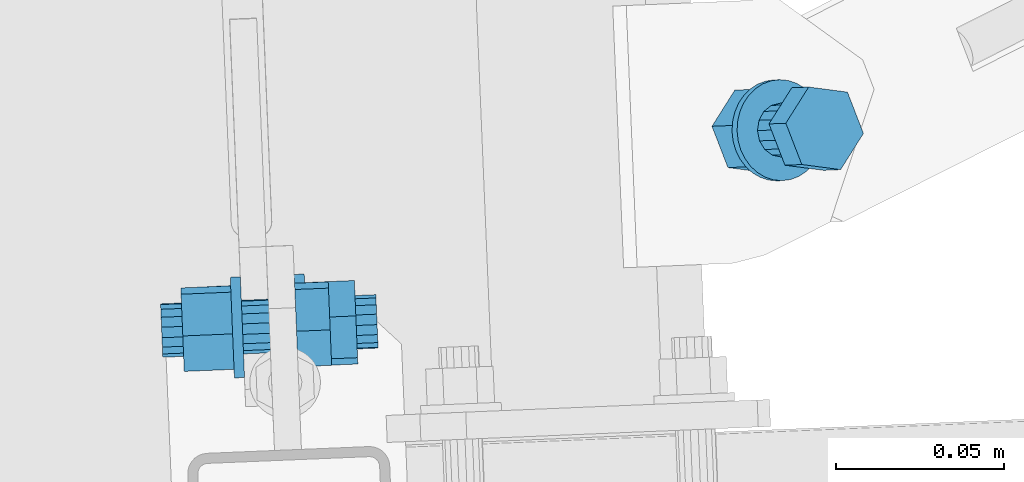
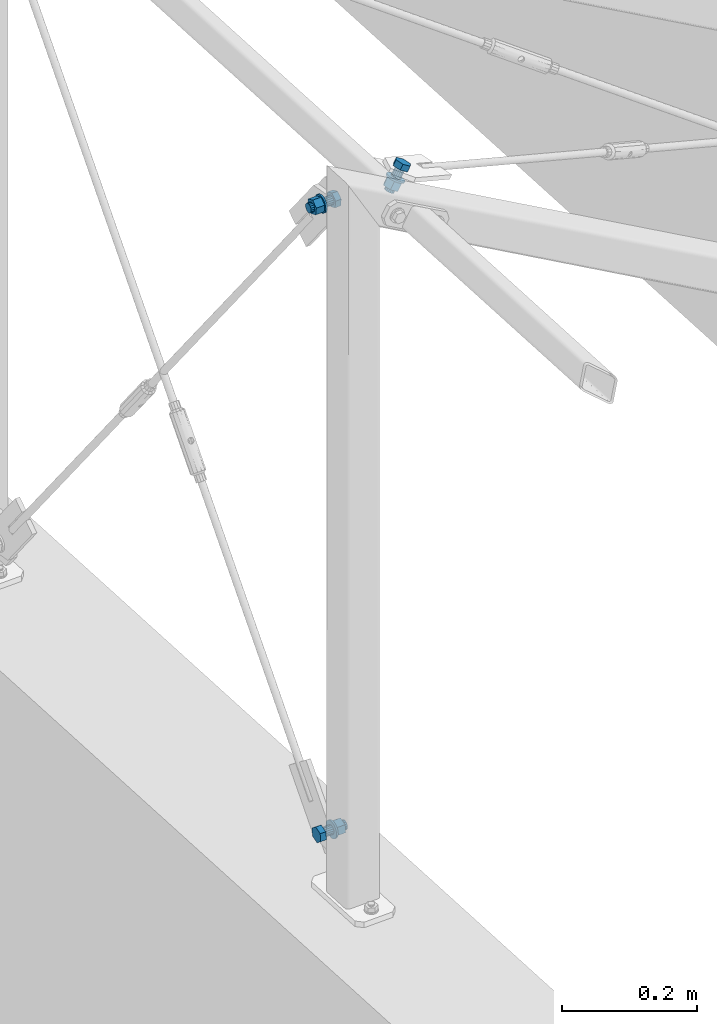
# One storey, part 237 of 288: 3 mechanical fasteners.
"""IFC2X3 building model written with IfcOpenShell, lengths in millimetres."""

from ifc_helpers import new_model, entity, si_unit, converted_unit, origin_with_axes, place, context, project, spatial, faceted_brep, element, save


model = new_model("IFC2X3")

# Units and contexts
model_context = context("Model", 3, precision=1e-09, world=origin_with_axes())
ifc_project = project(units=[si_unit("LENGTHUNIT", "METRE", prefix="MILLI"), si_unit("AREAUNIT", "SQUARE_METRE"), si_unit("VOLUMEUNIT", "CUBIC_METRE"), converted_unit("PLANEANGLEUNIT", "DEGREE", entity("IfcPlaneAngleMeasure", 0.01745329), si_unit("PLANEANGLEUNIT", "RADIAN"), dimensions=[0, 0, 0, 0, 0, 0, 0])], contexts=[model_context])

# Site, building, storey
site_placement = place(None, origin_with_axes())
site = spatial("IfcSite", under=ifc_project, at=site_placement, Name="Remont ?wietlik?w nad MC w NCPP w Opolu", CompositionType="ELEMENT")
building_placement = place(site_placement, origin_with_axes())
building = spatial("IfcBuilding", under=site, at=building_placement, Name="Konstrukcja 1", CompositionType="ELEMENT")
storey_placement = place(building_placement, origin_with_axes())
storey = spatial("IfcBuildingStorey", under=building, at=storey_placement, Name="Default Storey", CompositionType="ELEMENT", Elevation=0.0)

# Mechanical fasteners
mechanical_fastener_1_placement = place(None, origin_with_axes())
element("IfcMechanicalFastener", 1, at=mechanical_fastener_1_placement, inside=storey, ObjectType="Bolt#1", NominalDiameter=16.0, NominalLength=40.0, context=model_context, shape_type="Brep", body=[
    faceted_brep([(-567.97114098, 10330.178741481, 98.705148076), (-577.962454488, 10329.762022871, 98.705148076), (-577.445291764, 10317.362444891, 93.717800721), (-567.453978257, 10317.779163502, 93.717800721), (-577.366698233, 10315.478073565, 80.476441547), (-567.375384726, 10315.894792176, 80.476441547), (-577.805267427, 10325.993280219, 72.222429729), (-567.81395392, 10326.409998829, 72.222429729), (-578.322430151, 10338.392858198, 77.209777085), (-568.331116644, 10338.809576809, 77.209777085), (-578.401023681, 10340.277229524, 90.451136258), (-568.409710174, 10340.693948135, 90.451136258)], [[[0, 1, 2, 3]], [[3, 2, 4, 5]], [[5, 4, 6, 7]], [[7, 6, 8, 9]], [[9, 8, 10, 11]], [[11, 10, 1, 0]], [[4, 2, 1, 10, 8, 6]], [[0, 3, 5, 7, 9, 11]]]),
    faceted_brep([(-567.686814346, 10323.361679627, 79.16885141), (-551.700712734, 10324.028429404, 79.16885141), (-551.615987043, 10321.997032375, 81.537325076), (-567.602088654, 10321.330282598, 81.537325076), (-551.57548107, 10321.025854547, 84.503567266), (-567.561582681, 10320.35910477, 84.503567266), (-551.585361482, 10321.262748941, 87.615994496), (-567.571463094, 10320.595999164, 87.615994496), (-551.644124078, 10322.671650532, 90.400767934), (-567.630225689, 10322.004900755, 90.400767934), (-551.742822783, 10325.038066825, 92.433931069), (-567.728924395, 10324.371317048, 92.433931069), (-551.866431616, 10328.001732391, 93.405953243), (-567.852533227, 10327.334982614, 93.405953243), (-551.996132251, 10331.111456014, 93.168852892), (-567.982233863, 10330.444706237, 93.168852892), (-552.112178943, 10333.89381046, 91.758726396), (-568.098280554, 10333.227060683, 91.758726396), (-552.196904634, 10335.925207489, 89.39025273), (-568.183006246, 10335.258457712, 89.39025273), (-552.237410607, 10336.896385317, 86.42401054), (-568.223512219, 10336.22963554, 86.42401054), (-552.227530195, 10336.659490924, 83.31158331), (-568.213631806, 10335.992741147, 83.31158331), (-552.168767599, 10335.250589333, 80.526809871), (-568.154869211, 10334.583839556, 80.526809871), (-552.070068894, 10332.884173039, 78.493646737), (-568.056170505, 10332.217423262, 78.493646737), (-551.946460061, 10329.920507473, 77.521624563), (-567.932561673, 10329.253757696, 77.521624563), (-551.816759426, 10326.810783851, 77.758724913), (-567.802861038, 10326.144034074, 77.758724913)], [[[0, 1, 2, 3]], [[3, 2, 4, 5]], [[5, 4, 6, 7]], [[7, 6, 8, 9]], [[9, 8, 10, 11]], [[11, 10, 12, 13]], [[13, 12, 14, 15]], [[15, 14, 16, 17]], [[17, 16, 18, 19]], [[19, 18, 20, 21]], [[21, 20, 22, 23]], [[23, 22, 24, 25]], [[25, 24, 26, 27]], [[27, 26, 28, 29]], [[29, 28, 30, 31]], [[31, 30, 1, 0]], [[0, 3, 5, 7, 9, 11, 13, 15, 17, 19, 21, 23, 25, 27, 29, 31]], [[1, 30, 28, 26, 24, 22, 20, 18, 16, 14, 12, 10, 8, 6, 4, 2]]]),
    faceted_brep([(-551.520696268, 10319.712325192, 73.660781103), (-548.523302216, 10319.837340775, 73.660781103), (-548.434758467, 10317.714401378, 75.693491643), (-551.432152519, 10317.589385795, 75.693491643), (-548.364441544, 10316.028471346, 78.101669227), (-551.361835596, 10315.903455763, 78.101669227), (-548.315053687, 10314.844340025, 80.792768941), (-551.31244774, 10314.719324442, 80.792768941), (-548.288492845, 10314.207512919, 83.663373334), (-551.285886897, 10314.082497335, 83.663373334), (-548.285779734, 10314.142462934, 86.603166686), (-551.283173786, 10314.017447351, 86.603166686), (-548.307018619, 10314.651689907, 89.49917439), (-551.304412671, 10314.526674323, 89.49917439), (-548.351393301, 10315.715624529, 92.240104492), (-551.348787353, 10315.590608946, 92.240104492), (-548.417198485, 10317.29338039, 94.720624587), (-551.414592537, 10317.168364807, 94.720624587), (-548.501905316, 10319.324325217, 96.845409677), (-551.499299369, 10319.199309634, 96.845409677), (-548.602258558, 10321.730410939, 98.532805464), (-551.59965261, 10321.605395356, 98.532805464), (-548.714401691, 10324.419173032, 99.717966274), (-551.711795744, 10324.294157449, 99.717966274), (-548.834025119, 10327.287283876, 100.355347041), (-551.831419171, 10327.162268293, 100.355347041), (-548.956531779, 10330.224523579, 100.42045358), (-551.953925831, 10330.099507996, 100.42045358), (-549.07721381, 10333.118015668, 99.910783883), (-552.074607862, 10332.993000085, 99.910783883), (-549.191433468, 10335.856564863, 98.845924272), (-552.18882752, 10335.73154928, 98.845924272), (-549.294801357, 10338.334930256, 97.266796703), (-552.292195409, 10338.209914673, 97.266796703), (-549.383345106, 10340.457869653, 95.234086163), (-552.380739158, 10340.33285407, 95.234086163), (-549.453662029, 10342.143799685, 92.825908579), (-552.451056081, 10342.018784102, 92.825908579), (-549.503049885, 10343.327931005, 90.134808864), (-552.500443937, 10343.202915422, 90.134808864), (-549.529610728, 10343.964758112, 87.264204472), (-552.52700478, 10343.839742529, 87.264204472), (-549.532323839, 10344.029808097, 84.324411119), (-552.529717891, 10343.904792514, 84.324411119), (-549.511084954, 10343.520581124, 81.428403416), (-552.508479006, 10343.395565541, 81.428403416), (-549.466710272, 10342.456646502, 78.687473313), (-552.464104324, 10342.331630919, 78.687473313), (-549.400905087, 10340.878890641, 76.206953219), (-552.39829914, 10340.753875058, 76.206953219), (-549.316198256, 10338.847945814, 74.082168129), (-552.313592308, 10338.722930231, 74.082168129), (-549.215845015, 10336.441860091, 72.394772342), (-552.213239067, 10336.316844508, 72.394772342), (-549.103701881, 10333.753097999, 71.209611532), (-552.101095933, 10333.628082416, 71.209611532), (-548.984078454, 10330.884987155, 70.572230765), (-551.981472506, 10330.759971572, 70.572230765), (-548.861571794, 10327.947747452, 70.507124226), (-551.858965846, 10327.822731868, 70.507124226), (-548.740889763, 10325.054255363, 71.016793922), (-551.738283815, 10324.92923978, 71.016793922), (-548.626670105, 10322.315706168, 72.081653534), (-551.624064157, 10322.190690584, 72.081653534)], [[[0, 1, 2, 3]], [[3, 2, 4, 5]], [[5, 4, 6, 7]], [[7, 6, 8, 9]], [[9, 8, 10, 11]], [[11, 10, 12, 13]], [[13, 12, 14, 15]], [[15, 14, 16, 17]], [[17, 16, 18, 19]], [[19, 18, 20, 21]], [[21, 20, 22, 23]], [[23, 22, 24, 25]], [[25, 24, 26, 27]], [[27, 26, 28, 29]], [[29, 28, 30, 31]], [[31, 30, 32, 33]], [[33, 32, 34, 35]], [[35, 34, 36, 37]], [[37, 36, 38, 39]], [[39, 38, 40, 41]], [[41, 40, 42, 43]], [[43, 42, 44, 45]], [[45, 44, 46, 47]], [[47, 46, 48, 49]], [[49, 48, 50, 51]], [[51, 50, 52, 53]], [[53, 52, 54, 55]], [[55, 54, 56, 57]], [[57, 56, 58, 59]], [[59, 58, 60, 61]], [[61, 60, 62, 63]], [[63, 62, 1, 0]], [[0, 3, 5, 7, 9, 11, 13, 15, 17, 19, 21, 23, 25, 27, 29, 31, 33, 35, 37, 39, 41, 43, 45, 47, 49, 51, 53, 55, 57, 59, 61, 63]], [[1, 62, 60, 58, 56, 54, 52, 50, 48, 46, 44, 42, 40, 38, 36, 34, 32, 30, 28, 26, 24, 22, 20, 18, 16, 14, 12, 10, 8, 6, 4, 2]]]),
    faceted_brep([(-534.200501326, 10331.587250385, 98.705148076), (-548.987645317, 10330.970506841, 98.705148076), (-548.470482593, 10318.570928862, 93.717800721), (-533.683338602, 10319.187672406, 93.717800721), (-548.391889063, 10316.686557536, 80.476441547), (-533.604745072, 10317.30330108, 80.476441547), (-548.830458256, 10327.201764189, 72.222429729), (-534.043314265, 10327.818507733, 72.222429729), (-549.34762098, 10339.601342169, 77.209777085), (-534.560476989, 10340.218085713, 77.209777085), (-549.42621451, 10341.485713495, 90.451136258), (-534.639070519, 10342.102457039, 90.451136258)], [[[0, 1, 2, 3]], [[3, 2, 4, 5]], [[5, 4, 6, 7]], [[7, 6, 8, 9]], [[9, 8, 10, 11]], [[11, 10, 1, 0]], [[4, 2, 1, 10, 8, 6]], [[0, 3, 5, 7, 9, 11]]]),
    faceted_brep([(-533.916174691, 10324.770188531, 79.16885141), (-527.721560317, 10325.02855407, 79.16885141), (-527.636834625, 10322.997157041, 81.537325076), (-533.831449, 10322.738791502, 81.537325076), (-527.596328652, 10322.025979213, 84.503567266), (-533.790943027, 10321.767613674, 84.503567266), (-527.606209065, 10322.262873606, 87.615994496), (-533.80082344, 10322.004508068, 87.615994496), (-527.664971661, 10323.671775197, 90.400767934), (-533.859586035, 10323.413409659, 90.400767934), (-527.763670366, 10326.038191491, 92.433931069), (-533.958284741, 10325.779825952, 92.433931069), (-527.887279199, 10329.001857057, 93.405953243), (-534.081893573, 10328.743491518, 93.405953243), (-528.016979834, 10332.111580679, 93.168852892), (-534.211594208, 10331.85321514, 93.168852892), (-528.133026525, 10334.893935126, 91.758726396), (-534.3276409, 10334.635569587, 91.758726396), (-528.217752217, 10336.925332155, 89.39025273), (-534.412366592, 10336.666966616, 89.39025273), (-528.25825819, 10337.896509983, 86.42401054), (-534.452872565, 10337.638144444, 86.42401054), (-528.248377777, 10337.659615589, 83.31158331), (-534.442992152, 10337.401250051, 83.31158331), (-528.189615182, 10336.250713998, 80.526809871), (-534.384229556, 10335.992348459, 80.526809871), (-528.090916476, 10333.884297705, 78.493646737), (-534.285530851, 10333.625932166, 78.493646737), (-527.967307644, 10330.920632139, 77.521624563), (-534.161922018, 10330.6622666, 77.521624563), (-527.837607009, 10327.810908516, 77.758724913), (-534.032221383, 10327.552542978, 77.758724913)], [[[0, 1, 2, 3]], [[3, 2, 4, 5]], [[5, 4, 6, 7]], [[7, 6, 8, 9]], [[9, 8, 10, 11]], [[11, 10, 12, 13]], [[13, 12, 14, 15]], [[15, 14, 16, 17]], [[17, 16, 18, 19]], [[19, 18, 20, 21]], [[21, 20, 22, 23]], [[23, 22, 24, 25]], [[25, 24, 26, 27]], [[27, 26, 28, 29]], [[29, 28, 30, 31]], [[31, 30, 1, 0]], [[0, 3, 5, 7, 9, 11, 13, 15, 17, 19, 21, 23, 25, 27, 29, 31]], [[1, 30, 28, 26, 24, 22, 20, 18, 16, 14, 12, 10, 8, 6, 4, 2]]]),
])
mechanical_fastener_2_placement = place(None, origin_with_axes())
element("IfcMechanicalFastener", 2, at=mechanical_fastener_2_placement, inside=storey, ObjectType="Bolt#1", NominalDiameter=16.0, NominalLength=40.0, context=model_context, shape_type="Brep", body=[
    faceted_brep([(-551.957344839, 10330.773663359, 1209.161231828), (-541.965882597, 10331.186800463, 1209.161231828), (-541.453398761, 10318.792699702, 1214.16265679), (-551.444861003, 10318.379562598, 1214.16265679), (-541.376101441, 10316.923312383, 1227.406147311), (-551.367563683, 10316.510175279, 1227.406147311), (-541.811287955, 10327.448025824, 1235.64821287), (-551.802750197, 10327.03488872, 1235.64821287), (-542.323771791, 10339.842126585, 1230.646787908), (-552.315234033, 10339.428989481, 1230.646787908), (-542.401069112, 10341.711513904, 1217.403297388), (-552.392531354, 10341.2983768, 1217.403297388)], [[[0, 1, 2, 3]], [[3, 2, 4, 5]], [[5, 4, 6, 7]], [[7, 6, 8, 9]], [[9, 8, 10, 11]], [[11, 10, 1, 0]], [[4, 2, 1, 10, 8, 6]], [[0, 3, 5, 7, 9, 11]]]),
    faceted_brep([(-551.6763778, 10323.978651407, 1228.705257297), (-567.662717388, 10323.31763204, 1228.705257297), (-567.578608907, 10321.283521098, 1226.339091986), (-551.59226932, 10321.944540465, 1226.339091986), (-567.538312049, 10320.308966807, 1223.373954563), (-551.551972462, 10320.969986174, 1223.373954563), (-567.547961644, 10320.542336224, 1220.261260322), (-551.561622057, 10321.20335559, 1220.261260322), (-567.606088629, 10321.94810097, 1217.474888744), (-551.619749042, 10322.609120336, 1217.474888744), (-567.703843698, 10324.312246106, 1215.439039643), (-551.717504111, 10324.973265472, 1215.439039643), (-567.826344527, 10327.274851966, 1214.46365259), (-551.840004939, 10327.935871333, 1214.46365259), (-567.954941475, 10330.384888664, 1214.697221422), (-551.968601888, 10331.045908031, 1214.697221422), (-568.070056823, 10333.168881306, 1216.104187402), (-552.083717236, 10333.829900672, 1216.104187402), (-568.154165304, 10335.202992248, 1218.470352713), (-552.167825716, 10335.864011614, 1218.470352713), (-568.194462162, 10336.177546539, 1221.435490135), (-552.208122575, 10336.838565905, 1221.435490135), (-568.184812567, 10335.944177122, 1224.548184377), (-552.19847298, 10336.605196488, 1224.548184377), (-568.126685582, 10334.538412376, 1227.334555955), (-552.140345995, 10335.199431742, 1227.334555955), (-568.028930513, 10332.17426724, 1229.370405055), (-552.042590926, 10332.835286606, 1229.370405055), (-567.906429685, 10329.21166138, 1230.345792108), (-551.920090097, 10329.872680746, 1230.345792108), (-567.777832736, 10326.101624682, 1230.112223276), (-551.791493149, 10326.762644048, 1230.112223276)], [[[0, 1, 2, 3]], [[3, 2, 4, 5]], [[5, 4, 6, 7]], [[7, 6, 8, 9]], [[9, 8, 10, 11]], [[11, 10, 12, 13]], [[13, 12, 14, 15]], [[15, 14, 16, 17]], [[17, 16, 18, 19]], [[19, 18, 20, 21]], [[21, 20, 22, 23]], [[23, 22, 24, 25]], [[25, 24, 26, 27]], [[27, 26, 28, 29]], [[29, 28, 30, 31]], [[31, 30, 1, 0]], [[0, 3, 5, 7, 9, 11, 13, 15, 17, 19, 21, 23, 25, 27, 29, 31]], [[1, 30, 28, 26, 24, 22, 20, 18, 16, 14, 12, 10, 8, 6, 4, 2]]]),
    faceted_brep([(-567.484506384, 10319.007710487, 1234.218225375), (-570.481945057, 10318.883769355, 1234.218225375), (-570.394067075, 10316.758495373, 1232.187926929), (-567.396628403, 10316.882436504, 1232.187926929), (-570.324241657, 10315.069811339, 1229.781665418), (-567.326802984, 10315.19375247, 1229.781665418), (-570.275152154, 10313.882612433, 1227.091912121), (-567.277713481, 10314.006553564, 1227.091912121), (-570.248685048, 10313.242522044, 1224.22203275), (-567.251246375, 10313.366463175, 1224.22203275), (-570.245857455, 10313.174138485, 1221.28231516), (-567.248418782, 10313.298079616, 1221.28231516), (-570.266778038, 10313.6800897, 1218.385731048), (-567.269339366, 10313.804030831, 1218.385731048), (-570.310642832, 10314.740932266, 1215.643594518), (-567.313204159, 10314.864873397, 1215.643594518), (-570.375766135, 10316.315898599, 1213.161284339), (-567.378327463, 10316.43983973, 1213.161284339), (-570.459645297, 10318.344463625, 1211.034194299), (-567.462206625, 10318.468404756, 1211.034194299), (-570.559056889, 10320.748670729, 1209.344067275), (-567.561618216, 10320.87261186, 1209.344067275), (-570.670180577, 10323.436127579, 1208.155853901), (-567.672741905, 10323.56006871, 1208.155853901), (-570.788745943, 10326.303556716, 1207.515216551), (-567.79130727, 10326.427497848, 1207.515216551), (-570.910196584, 10329.240764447, 1207.446774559), (-567.912757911, 10329.364705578, 1207.446774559), (-571.029865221, 10332.134875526, 1207.953158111), (-568.032426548, 10332.258816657, 1207.953158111), (-571.143153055, 10334.874670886, 1209.014907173), (-568.145714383, 10334.998612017, 1209.014907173), (-571.245706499, 10337.354861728, 1210.591219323), (-568.248267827, 10337.47880286, 1210.591219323), (-571.333584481, 10339.48013571, 1212.621517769), (-568.336145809, 10339.604076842, 1212.621517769), (-571.4034099, 10341.168819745, 1215.027779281), (-568.405971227, 10341.292760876, 1215.027779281), (-571.452499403, 10342.35601865, 1217.717532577), (-568.45506073, 10342.479959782, 1217.717532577), (-571.478966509, 10342.99610904, 1220.587411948), (-568.481527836, 10343.120050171, 1220.587411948), (-571.481794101, 10343.064492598, 1223.527129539), (-568.484355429, 10343.18843373, 1223.527129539), (-571.460873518, 10342.558541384, 1226.42371365), (-568.463434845, 10342.682482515, 1226.42371365), (-571.417008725, 10341.497698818, 1229.16585018), (-568.419570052, 10341.621639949, 1229.16585018), (-571.351885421, 10339.922732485, 1231.648160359), (-568.354446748, 10340.046673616, 1231.648160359), (-571.268006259, 10337.894167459, 1233.775250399), (-568.270567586, 10338.01810859, 1233.775250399), (-571.168594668, 10335.489960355, 1235.465377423), (-568.171155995, 10335.613901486, 1235.465377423), (-571.057470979, 10332.802503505, 1236.653590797), (-568.060032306, 10332.926444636, 1236.653590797), (-570.938905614, 10329.935074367, 1237.294228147), (-567.941466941, 10330.059015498, 1237.294228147), (-570.817454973, 10326.997866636, 1237.36267014), (-567.8200163, 10327.121807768, 1237.36267014), (-570.697786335, 10324.103755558, 1236.856286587), (-567.700347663, 10324.227696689, 1236.856286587), (-570.584498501, 10321.363960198, 1235.794537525), (-567.587059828, 10321.487901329, 1235.794537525)], [[[0, 1, 2, 3]], [[3, 2, 4, 5]], [[5, 4, 6, 7]], [[7, 6, 8, 9]], [[9, 8, 10, 11]], [[11, 10, 12, 13]], [[13, 12, 14, 15]], [[15, 14, 16, 17]], [[17, 16, 18, 19]], [[19, 18, 20, 21]], [[21, 20, 22, 23]], [[23, 22, 24, 25]], [[25, 24, 26, 27]], [[27, 26, 28, 29]], [[29, 28, 30, 31]], [[31, 30, 32, 33]], [[33, 32, 34, 35]], [[35, 34, 36, 37]], [[37, 36, 38, 39]], [[39, 38, 40, 41]], [[41, 40, 42, 43]], [[43, 42, 44, 45]], [[45, 44, 46, 47]], [[47, 46, 48, 49]], [[49, 48, 50, 51]], [[51, 50, 52, 53]], [[53, 52, 54, 55]], [[55, 54, 56, 57]], [[57, 56, 58, 59]], [[59, 58, 60, 61]], [[61, 60, 62, 63]], [[63, 62, 1, 0]], [[0, 3, 5, 7, 9, 11, 13, 15, 17, 19, 21, 23, 25, 27, 29, 31, 33, 35, 37, 39, 41, 43, 45, 47, 49, 51, 53, 55, 57, 59, 61, 63]], [[1, 62, 60, 58, 56, 54, 52, 50, 48, 46, 44, 42, 40, 38, 36, 34, 32, 30, 28, 26, 24, 22, 20, 18, 16, 14, 12, 10, 8, 6, 4, 2]]]),
    faceted_brep([(-585.728487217, 10329.377259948, 1209.161231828), (-570.941123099, 10329.988702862, 1209.161231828), (-570.428639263, 10317.594602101, 1214.16265679), (-585.216003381, 10316.983159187, 1214.16265679), (-570.351341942, 10315.725214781, 1227.406147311), (-585.138706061, 10315.113771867, 1227.406147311), (-570.786528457, 10326.249928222, 1235.64821287), (-585.573892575, 10325.638485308, 1235.64821287), (-571.299012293, 10338.644028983, 1230.646787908), (-586.086376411, 10338.032586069, 1230.646787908), (-571.376309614, 10340.513416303, 1217.403297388), (-586.163673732, 10339.901973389, 1217.403297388)], [[[0, 1, 2, 3]], [[3, 2, 4, 5]], [[5, 4, 6, 7]], [[7, 6, 8, 9]], [[9, 8, 10, 11]], [[11, 10, 1, 0]], [[4, 2, 1, 10, 8, 6]], [[0, 3, 5, 7, 9, 11]]]),
    faceted_brep([(-585.447520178, 10322.582247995, 1228.705257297), (-591.642226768, 10322.326102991, 1228.705257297), (-591.558118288, 10320.291992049, 1226.339091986), (-585.363411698, 10320.548137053, 1226.339091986), (-591.51782143, 10319.317437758, 1223.373954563), (-585.32311484, 10319.573582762, 1223.373954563), (-591.527471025, 10319.550807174, 1220.261260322), (-585.332764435, 10319.806952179, 1220.261260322), (-591.58559801, 10320.95657192, 1217.474888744), (-585.39089142, 10321.212716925, 1217.474888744), (-591.683353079, 10323.320717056, 1215.439039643), (-585.488646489, 10323.576862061, 1215.439039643), (-591.805853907, 10326.283322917, 1214.46365259), (-585.611147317, 10326.539467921, 1214.46365259), (-591.934450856, 10329.393359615, 1214.697221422), (-585.739744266, 10329.649504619, 1214.697221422), (-592.049566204, 10332.177352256, 1216.104187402), (-585.854859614, 10332.433497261, 1216.104187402), (-592.133674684, 10334.211463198, 1218.470352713), (-585.938968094, 10334.467608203, 1218.470352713), (-592.173971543, 10335.186017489, 1221.435490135), (-585.979264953, 10335.442162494, 1221.435490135), (-592.164321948, 10334.952648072, 1224.548184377), (-585.969615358, 10335.208793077, 1224.548184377), (-592.106194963, 10333.546883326, 1227.334555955), (-585.911488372, 10333.803028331, 1227.334555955), (-592.008439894, 10331.18273819, 1229.370405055), (-585.813733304, 10331.438883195, 1229.370405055), (-591.885939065, 10328.22013233, 1230.345792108), (-585.691232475, 10328.476277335, 1230.345792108), (-591.757342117, 10325.110095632, 1230.112223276), (-585.562635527, 10325.366240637, 1230.112223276)], [[[0, 1, 2, 3]], [[3, 2, 4, 5]], [[5, 4, 6, 7]], [[7, 6, 8, 9]], [[9, 8, 10, 11]], [[11, 10, 12, 13]], [[13, 12, 14, 15]], [[15, 14, 16, 17]], [[17, 16, 18, 19]], [[19, 18, 20, 21]], [[21, 20, 22, 23]], [[23, 22, 24, 25]], [[25, 24, 26, 27]], [[27, 26, 28, 29]], [[29, 28, 30, 31]], [[31, 30, 1, 0]], [[0, 3, 5, 7, 9, 11, 13, 15, 17, 19, 21, 23, 25, 27, 29, 31]], [[1, 30, 28, 26, 24, 22, 20, 18, 16, 14, 12, 10, 8, 6, 4, 2]]]),
])
mechanical_fastener_3_placement = place(None, origin_with_axes())
element("IfcMechanicalFastener", 3, at=mechanical_fastener_3_placement, inside=storey, ObjectType="Bolt#1", NominalDiameter=16.0, NominalLength=40.0, context=model_context, shape_type="Brep", body=[
    faceted_brep([(-388.231607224, 10398.033703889, 1196.884625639), (-393.239277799, 10397.825044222, 1188.231320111), (-404.756816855, 10399.340931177, 1194.859970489), (-399.749146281, 10399.549590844, 1203.513276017), (-411.531806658, 10388.592957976, 1199.039828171), (-406.524136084, 10388.801617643, 1207.693133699), (-406.789257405, 10376.32909782, 1196.591035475), (-401.78158683, 10376.537757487, 1205.244341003), (-395.271718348, 10374.813210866, 1189.962385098), (-390.264047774, 10375.021870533, 1198.615690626), (-388.496728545, 10385.561184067, 1185.782527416), (-383.489057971, 10385.769843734, 1194.435832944)], [[[0, 1, 2, 3]], [[3, 2, 4, 5]], [[5, 4, 6, 7]], [[7, 6, 8, 9]], [[9, 8, 10, 11]], [[11, 10, 1, 0]], [[3, 5, 7, 9, 11, 0]], [[2, 1, 10, 8, 6, 4]]]),
    faceted_brep([(-414.343517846, 10383.555089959, 1182.298401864), (-406.331244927, 10383.888945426, 1196.143690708), (-406.935938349, 10386.938760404, 1196.420085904), (-414.948211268, 10386.604904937, 1182.574797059), (-406.486870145, 10390.00963192, 1196.086161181), (-414.499143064, 10389.675776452, 1182.240872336), (-405.052406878, 10392.634047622, 1195.192753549), (-413.064679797, 10392.300192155, 1181.347464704), (-402.850932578, 10394.412464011, 1193.875876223), (-410.863205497, 10394.078608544, 1180.030587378), (-400.217601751, 10395.074133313, 1192.336011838), (-408.22987467, 10394.740277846, 1178.490722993), (-397.553315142, 10394.518322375, 1190.807590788), (-405.565588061, 10394.184466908, 1176.962301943), (-395.263686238, 10392.829648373, 1189.523301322), (-403.275959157, 10392.495792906, 1175.678012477), (-393.697290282, 10390.265196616, 1188.678664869), (-401.709563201, 10389.931341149, 1174.833376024), (-393.09259686, 10387.215381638, 1188.402269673), (-401.104869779, 10386.881526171, 1174.556980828), (-393.541665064, 10384.144510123, 1188.736194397), (-401.553937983, 10383.810654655, 1174.890905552), (-394.97612833, 10381.52009442, 1189.629602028), (-402.988401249, 10381.186238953, 1175.784313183), (-397.17760263, 10379.741678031, 1190.946479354), (-405.189875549, 10379.407822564, 1177.101190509), (-399.810933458, 10379.080008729, 1192.486343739), (-407.823206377, 10378.746153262, 1178.641054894), (-402.475220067, 10379.635819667, 1194.01476479), (-410.487492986, 10379.3019642, 1180.169475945), (-404.764848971, 10381.324493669, 1195.299054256), (-412.77712189, 10380.990638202, 1181.453765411)], [[[0, 1, 2, 3]], [[3, 2, 4, 5]], [[5, 4, 6, 7]], [[7, 6, 8, 9]], [[9, 8, 10, 11]], [[11, 10, 12, 13]], [[13, 12, 14, 15]], [[15, 14, 16, 17]], [[17, 16, 18, 19]], [[19, 18, 20, 21]], [[21, 20, 22, 23]], [[23, 22, 24, 25]], [[25, 24, 26, 27]], [[27, 26, 28, 29]], [[29, 28, 30, 31]], [[31, 30, 1, 0]], [[2, 1, 30, 28, 26, 24, 22, 20, 18, 16, 14, 12, 10, 8, 6, 4]], [[31, 0, 3, 5, 7, 9, 11, 13, 15, 17, 19, 21, 23, 25, 27, 29]]]),
    faceted_brep([(-421.373174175, 10380.702882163, 1182.96835901), (-419.870873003, 10380.765480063, 1185.564350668), (-420.680923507, 10383.563585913, 1185.965655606), (-422.183224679, 10383.500988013, 1183.369663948), (-421.004673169, 10386.483883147, 1186.082591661), (-422.506974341, 10386.421285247, 1183.486600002), (-420.829680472, 10389.414146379, 1185.910665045), (-422.331981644, 10389.351548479, 1183.314673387), (-420.162670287, 10392.241767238, 1185.456482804), (-421.664971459, 10392.179169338, 1182.860491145), (-419.029275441, 10394.85808184, 1184.737498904), (-420.531576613, 10394.79548394, 1182.141507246), (-417.473051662, 10397.162546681, 1183.781343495), (-418.975352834, 10397.099948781, 1181.185351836), (-415.553803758, 10399.06660247, 1182.624761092), (-417.056104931, 10399.00400457, 1180.028769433), (-413.34528735, 10400.497077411, 1181.312198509), (-414.847588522, 10400.43447951, 1178.71620685), (-410.932374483, 10401.398999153, 1179.894096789), (-412.434675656, 10401.336401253, 1177.298105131), (-408.407792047, 10401.737707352, 1178.424952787), (-409.91009322, 10401.675109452, 1175.828961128), (-405.868558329, 10401.500185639, 1176.961224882), (-407.370859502, 10401.437587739, 1174.365233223), (-403.412254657, 10400.695561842, 1175.559163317), (-404.914555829, 10400.632963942, 1172.963171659), (-401.133275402, 10399.354757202, 1174.272648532), (-402.635576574, 10399.292159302, 1171.676656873), (-399.11920046, 10397.529298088, 1173.151120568), (-400.621501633, 10397.466700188, 1170.55512891), (-397.447429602, 10395.289335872, 1172.237679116), (-398.949730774, 10395.226737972, 1169.641687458), (-396.182208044, 10392.720951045, 1171.567427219), (-397.684509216, 10392.658353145, 1168.971435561), (-395.37215754, 10389.922845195, 1171.166122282), (-396.874458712, 10389.860247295, 1168.570130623), (-395.048407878, 10387.002547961, 1171.049186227), (-396.55070905, 10386.939950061, 1168.453194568), (-395.223400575, 10384.072284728, 1171.221112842), (-396.725701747, 10384.009686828, 1168.625121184), (-395.89041076, 10381.244663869, 1171.675295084), (-397.392711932, 10381.182065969, 1169.079303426), (-397.023805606, 10378.628349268, 1172.394278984), (-398.526106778, 10378.565751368, 1169.798287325), (-398.580029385, 10376.323884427, 1173.350434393), (-400.082330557, 10376.261286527, 1170.754442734), (-400.499277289, 10374.419828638, 1174.507016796), (-402.001578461, 10374.357230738, 1171.911025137), (-402.707793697, 10372.989353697, 1175.819579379), (-404.21009487, 10372.926755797, 1173.223587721), (-405.120706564, 10372.087431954, 1177.237681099), (-406.623007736, 10372.024834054, 1174.64168944), (-407.645288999, 10371.748723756, 1178.706825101), (-409.147590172, 10371.686125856, 1176.110833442), (-410.184522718, 10371.986245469, 1180.170553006), (-411.68682389, 10371.923647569, 1177.574561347), (-412.64082639, 10372.790869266, 1181.572614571), (-414.143127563, 10372.728271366, 1178.976622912), (-414.919805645, 10374.131673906, 1182.859129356), (-416.422106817, 10374.069076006, 1180.263137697), (-416.933880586, 10375.957133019, 1183.98065732), (-418.436181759, 10375.894535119, 1181.384665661), (-418.605651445, 10378.197095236, 1184.894098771), (-420.107952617, 10378.134497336, 1182.298107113)], [[[0, 1, 2, 3]], [[3, 2, 4, 5]], [[5, 4, 6, 7]], [[7, 6, 8, 9]], [[9, 8, 10, 11]], [[11, 10, 12, 13]], [[13, 12, 14, 15]], [[15, 14, 16, 17]], [[17, 16, 18, 19]], [[19, 18, 20, 21]], [[21, 20, 22, 23]], [[23, 22, 24, 25]], [[25, 24, 26, 27]], [[27, 26, 28, 29]], [[29, 28, 30, 31]], [[31, 30, 32, 33]], [[33, 32, 34, 35]], [[35, 34, 36, 37]], [[37, 36, 38, 39]], [[39, 38, 40, 41]], [[41, 40, 42, 43]], [[43, 42, 44, 45]], [[45, 44, 46, 47]], [[47, 46, 48, 49]], [[49, 48, 50, 51]], [[51, 50, 52, 53]], [[53, 52, 54, 55]], [[55, 54, 56, 57]], [[57, 56, 58, 59]], [[59, 58, 60, 61]], [[61, 60, 62, 63]], [[63, 62, 1, 0]], [[2, 1, 62, 60, 58, 56, 54, 52, 50, 48, 46, 44, 42, 40, 38, 36, 34, 32, 30, 28, 26, 24, 22, 20, 18, 16, 14, 12, 10, 8, 6, 4]], [[63, 0, 3, 5, 7, 9, 11, 13, 15, 17, 19, 21, 23, 25, 27, 29, 31, 33, 35, 37, 39, 41, 43, 45, 47, 49, 51, 53, 55, 57, 59, 61]]]),
    faceted_brep([(-402.753851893, 10397.428590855, 1171.790039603), (-410.165204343, 10397.119774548, 1158.983147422), (-421.682743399, 10398.635661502, 1165.611797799), (-414.271390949, 10398.944477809, 1178.418689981), (-428.457733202, 10387.887688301, 1169.791655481), (-421.046380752, 10388.196504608, 1182.598547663), (-423.715183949, 10375.623828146, 1167.342862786), (-416.303831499, 10375.932644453, 1180.149754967), (-412.197644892, 10374.107941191, 1160.714212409), (-404.786292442, 10374.416757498, 1173.52110459), (-405.422655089, 10384.855914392, 1156.534354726), (-398.011302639, 10385.164730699, 1169.341246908)], [[[0, 1, 2, 3]], [[3, 2, 4, 5]], [[5, 4, 6, 7]], [[7, 6, 8, 9]], [[9, 8, 10, 11]], [[11, 10, 1, 0]], [[3, 5, 7, 9, 11, 0]], [[2, 1, 10, 8, 6, 4]]]),
    faceted_brep([(-426.361927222, 10383.054306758, 1161.530468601), (-423.257171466, 10383.183675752, 1166.895518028), (-423.861864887, 10386.23349073, 1167.171913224), (-426.966620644, 10386.104121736, 1161.806863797), (-423.412796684, 10389.304362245, 1166.8379885), (-426.51755244, 10389.174993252, 1161.472939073), (-421.978333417, 10391.928777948, 1165.944580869), (-425.083089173, 10391.799408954, 1160.579531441), (-419.776859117, 10393.707194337, 1164.627703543), (-422.881614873, 10393.577825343, 1159.262654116), (-417.143528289, 10394.368863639, 1163.087839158), (-420.248284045, 10394.239494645, 1157.722789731), (-414.479241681, 10393.8130527, 1161.559418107), (-417.583997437, 10393.683683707, 1156.19436868), (-412.189612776, 10392.124378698, 1160.275128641), (-415.294368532, 10391.995009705, 1154.910079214), (-410.623216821, 10389.559926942, 1159.430492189), (-413.727972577, 10389.430557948, 1154.065442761), (-410.018523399, 10386.510111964, 1159.154096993), (-413.123279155, 10386.38074297, 1153.789047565), (-410.467591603, 10383.439240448, 1159.488021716), (-413.572347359, 10383.309871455, 1154.122972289), (-411.902054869, 10380.814824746, 1160.381429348), (-415.006810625, 10380.685455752, 1155.01637992), (-414.103529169, 10379.036408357, 1161.698306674), (-417.208284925, 10378.907039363, 1156.333257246), (-416.736859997, 10378.374739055, 1163.238171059), (-419.841615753, 10378.245370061, 1157.873121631), (-419.401146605, 10378.930549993, 1164.766592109), (-422.505902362, 10378.801181, 1159.401542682), (-421.69077551, 10380.619223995, 1166.050881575), (-424.795531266, 10380.489855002, 1160.685832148)], [[[0, 1, 2, 3]], [[3, 2, 4, 5]], [[5, 4, 6, 7]], [[7, 6, 8, 9]], [[9, 8, 10, 11]], [[11, 10, 12, 13]], [[13, 12, 14, 15]], [[15, 14, 16, 17]], [[17, 16, 18, 19]], [[19, 18, 20, 21]], [[21, 20, 22, 23]], [[23, 22, 24, 25]], [[25, 24, 26, 27]], [[27, 26, 28, 29]], [[29, 28, 30, 31]], [[31, 30, 1, 0]], [[2, 1, 30, 28, 26, 24, 22, 20, 18, 16, 14, 12, 10, 8, 6, 4]], [[31, 0, 3, 5, 7, 9, 11, 13, 15, 17, 19, 21, 23, 25, 27, 29]]]),
])

save(model, "model.ifc")
